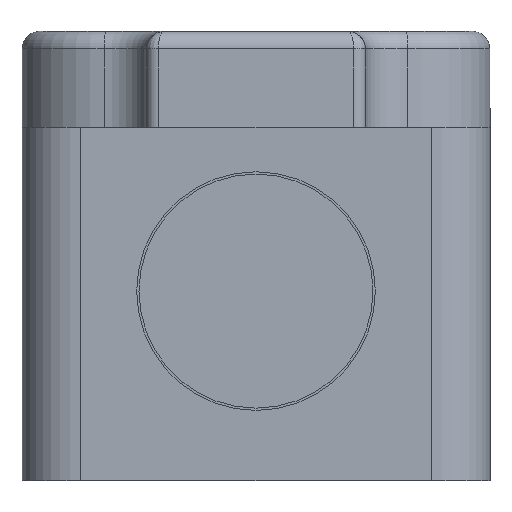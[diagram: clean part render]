
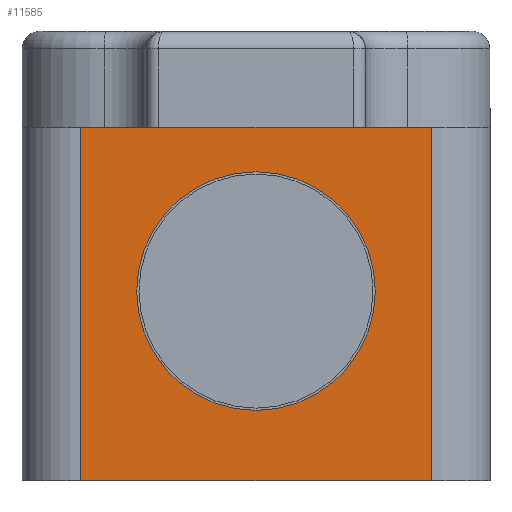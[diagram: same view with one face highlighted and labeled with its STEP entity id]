
A CAD part, front view. The second image highlights one B-rep face of the part: STEP entity #11585.
In plain terms, the highlighted planar face has unit normal (0, -1, 0).
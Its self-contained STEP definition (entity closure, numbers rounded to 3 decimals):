
#10849 = VERTEX_POINT ( 'NONE', #16157 ) ;
#10851 = EDGE_CURVE ( 'NONE', #10849, #10852, #16156, .T. ) ;
#10852 = VERTEX_POINT ( 'NONE', #16151 ) ;
#11260 = VERTEX_POINT ( 'NONE', #17050 ) ;
#11262 = EDGE_CURVE ( 'NONE', #11263, #11260, #17049, .T. ) ;
#11263 = VERTEX_POINT ( 'NONE', #17045 ) ;
#11565 = ORIENTED_EDGE ( 'NONE', *, *, #11583, .T. ) ;
#11566 = ORIENTED_EDGE ( 'NONE', *, *, #11567, .F. ) ;
#11567 = EDGE_CURVE ( 'NONE', #11568, #11581, #18004, .T. ) ;
#11568 = VERTEX_POINT ( 'NONE', #18000 ) ;
#11569 = ORIENTED_EDGE ( 'NONE', *, *, #11570, .F. ) ;
#11570 = EDGE_CURVE ( 'NONE', #11263, #11568, #17999, .T. ) ;
#11571 = ORIENTED_EDGE ( 'NONE', *, *, #11262, .T. ) ;
#11581 = VERTEX_POINT ( 'NONE', #17978 ) ;
#11583 = EDGE_CURVE ( 'NONE', #11260, #11581, #18041, .T. ) ;
#11585 = ADVANCED_FACE ( 'NONE', ( #18037, #18036 ), #18035, .T. ) ;
#11586 = EDGE_LOOP ( 'NONE', ( #11587, #11589 ) ) ;
#11587 = ORIENTED_EDGE ( 'NONE', *, *, #11588, .F. ) ;
#11588 = EDGE_CURVE ( 'NONE', #10852, #10849, #18032, .T. ) ;
#11589 = ORIENTED_EDGE ( 'NONE', *, *, #10851, .F. ) ;
#11590 = EDGE_LOOP ( 'NONE', ( #11565, #11566, #11569, #11571 ) ) ;
#16151 = CARTESIAN_POINT ( 'NONE',  ( 0., -66.3, -10.2 ) ) ;
#16152 = DIRECTION ( 'NONE',  ( 0., 0., -1. ) ) ;
#16153 = DIRECTION ( 'NONE',  ( 0., -1., 0. ) ) ;
#16154 = CARTESIAN_POINT ( 'NONE',  ( 0., -66.3, 0. ) ) ;
#16155 = AXIS2_PLACEMENT_3D ( 'NONE', #16154, #16153, #16152 ) ;
#16156 = CIRCLE ( 'NONE', #16155, 10.2 ) ;
#16157 = CARTESIAN_POINT ( 'NONE',  ( 0., -66.3, 10.2 ) ) ;
#17045 = CARTESIAN_POINT ( 'NONE',  ( -15., -66.3, -16.2 ) ) ;
#17046 = DIRECTION ( 'NONE',  ( 1., 0., 0. ) ) ;
#17047 = VECTOR ( 'NONE', #17046, 1000. ) ;
#17048 = CARTESIAN_POINT ( 'NONE',  ( 15., -66.3, -16.2 ) ) ;
#17049 = LINE ( 'NONE', #17048, #17047 ) ;
#17050 = CARTESIAN_POINT ( 'NONE',  ( 15., -66.3, -16.2 ) ) ;
#17978 = CARTESIAN_POINT ( 'NONE',  ( 15., -66.3, 14. ) ) ;
#17996 = DIRECTION ( 'NONE',  ( 0., 0., 1. ) ) ;
#17997 = VECTOR ( 'NONE', #17996, 1000. ) ;
#17998 = CARTESIAN_POINT ( 'NONE',  ( -15., -66.3, -16.2 ) ) ;
#17999 = LINE ( 'NONE', #17998, #17997 ) ;
#18000 = CARTESIAN_POINT ( 'NONE',  ( -15., -66.3, 14. ) ) ;
#18001 = DIRECTION ( 'NONE',  ( 1., 0., 0. ) ) ;
#18002 = VECTOR ( 'NONE', #18001, 1000. ) ;
#18003 = CARTESIAN_POINT ( 'NONE',  ( 15., -66.3, 14. ) ) ;
#18004 = LINE ( 'NONE', #18003, #18002 ) ;
#18026 = DIRECTION ( 'NONE',  ( 0., 0., -1. ) ) ;
#18027 = DIRECTION ( 'NONE',  ( 0., -1., 0. ) ) ;
#18028 = CARTESIAN_POINT ( 'NONE',  ( 0., -66.3, 0. ) ) ;
#18029 = AXIS2_PLACEMENT_3D ( 'NONE', #18028, #18027, #18026 ) ;
#18030 = DIRECTION ( 'NONE',  ( 0., 0., -1. ) ) ;
#18031 = DIRECTION ( 'NONE',  ( 0., -1., 0. ) ) ;
#18032 = CIRCLE ( 'NONE', #18029, 10.2 ) ;
#18033 = CARTESIAN_POINT ( 'NONE',  ( 15., -66.3, -16.2 ) ) ;
#18034 = AXIS2_PLACEMENT_3D ( 'NONE', #18033, #18031, #18030 ) ;
#18035 = PLANE ( 'NONE',  #18034 ) ;
#18036 = FACE_OUTER_BOUND ( 'NONE', #11590, .T. ) ;
#18037 = FACE_BOUND ( 'NONE', #11586, .T. ) ;
#18038 = DIRECTION ( 'NONE',  ( 0., 0., 1. ) ) ;
#18039 = VECTOR ( 'NONE', #18038, 1000. ) ;
#18040 = CARTESIAN_POINT ( 'NONE',  ( 15., -66.3, -16.2 ) ) ;
#18041 = LINE ( 'NONE', #18040, #18039 ) ;
